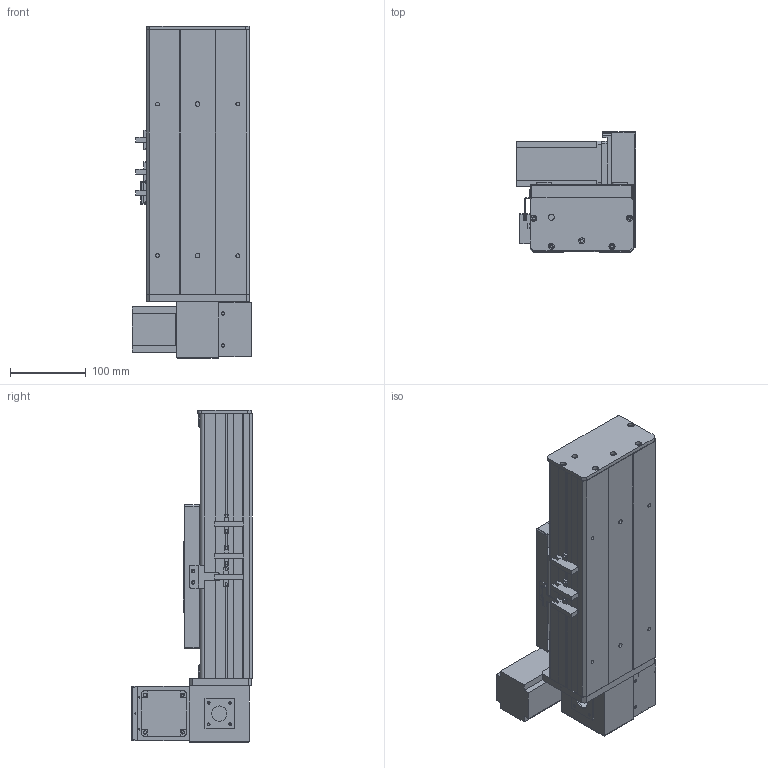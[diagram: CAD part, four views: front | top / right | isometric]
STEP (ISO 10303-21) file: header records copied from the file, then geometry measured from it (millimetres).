
FILE_DESCRIPTION (( 'STEP AP203' ), '1' );
FILE_NAME ('Y135CB-D90-S50-UL-P400W.STEP', '2020-02-18T06:57:07', ( '微软用户' ), ( '微软中国' ), 'SwSTEP 2.0', 'SolidWorks 2017', '' );
FILE_SCHEMA (( 'CONFIG_CONTROL_DESIGN' ));
Length unit declared in the file: millimetre
Products named in the file (18): 5C--俋欶; 0B-萇儂楊擘啣; C-雄赽釱--; san松下电机400不带刹车----; Y10B-耜蚾蟀諉啣----; 5CB --掛极耜裔啣-; 00B-俋欶BM--; C-詩湍揤踡え-陔; Y135CB-耜裔; Y10B--々湍喘謫眊--666; 135CB---遴掛极.-; Y135CB-D90-S50-UL-P400W; 135CB--詩湍-CE; 35CB---喘謫眊楊擘啣; Y100-135俋离換覜ん--; 0B-埴倛裔啣; Y135C-陔俋离換覜結え-; 0B-源倛裔啣
Assembly tree (21 placements, depth 2):
  Y135CB-D90-S50-UL-P400W
    Y135CB-耜裔
    135CB---遴掛极.-
    35CB---喘謫眊楊擘啣
    0B-埴倛裔啣
    0B-源倛裔啣
    0B-萇儂楊擘啣
    san松下电机400不带刹车----
    5CB --掛极耜裔啣-  x2
    C-詩湍揤踡え-陔  x2
    135CB--詩湍-CE
    Y100-135俋离換覜ん--  x3
    Y135C-陔俋离換覜結え-
    5C--俋欶
    C-雄赽釱--
    Y10B-耜蚾蟀諉啣----
    00B-俋欶BM--
    Y10B--々湍喘謫眊--666
Bounding box: 157 x 158.7 x 438 mm (x, y, z)
Volume: 1919443.9 mm3; surface area: 725797.9 mm2
Topology: 21 solids, 21 shells, 925 faces, 2437 edges, 1614 vertices
Faces by surface type: plane 456, cylinder 453, cone 16
Entity records: 28347 total; most frequent: DIRECTION 4705, CARTESIAN_POINT 4600, ORIENTED_EDGE 4350, EDGE_CURVE 2175, AXIS2_PLACEMENT_3D 1707, VERTEX_POINT 1442, VECTOR 1291, LINE 1291
